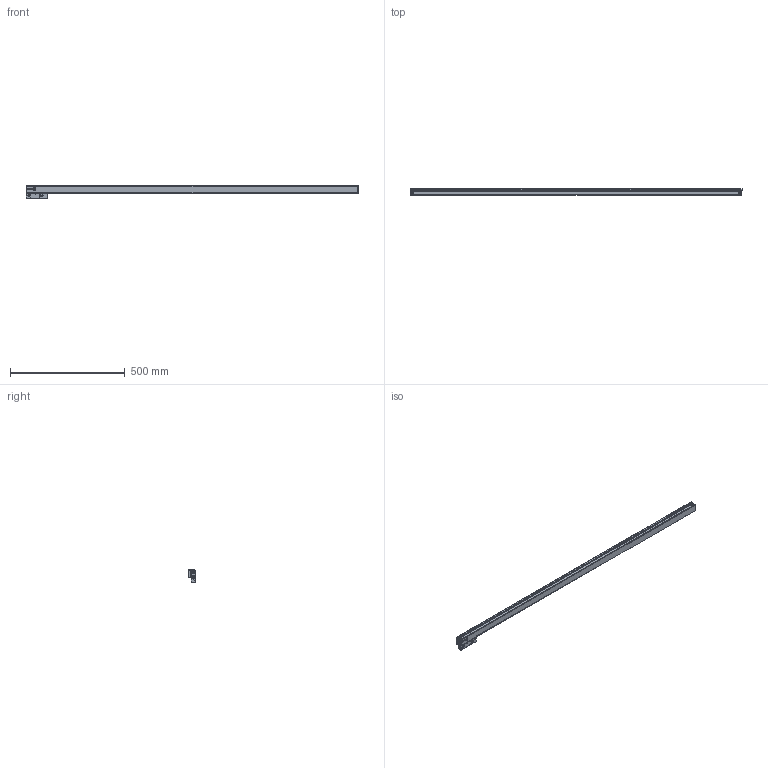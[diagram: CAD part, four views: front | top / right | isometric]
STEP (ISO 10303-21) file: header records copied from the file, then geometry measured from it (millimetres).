
FILE_DESCRIPTION(('Creo Elements/Direct Modeling STEP Export'),'2;1');
FILE_NAME('Regla SV2-1340.stp','2015-07-07T10:02:06',(''),(''),'Creo Elements/Direct Modeling STEP processor for AP214 (Solid Model)','Creo Elements/Direct Modeling 18.1G 27-Feb-2015 (C) Parametric Technology GmbH','');
FILE_SCHEMA(('AUTOMOTIVE_DESIGN { 1 0 10303 214 1 1 1 1 }'));
Length unit declared in the file: millimetre
Products named in the file (4): CABEZA_RANURADA_REGLA_SV2; REGLA_SV2-1340; SOPORTE_SV2; REGLA_SV2-1340mm
Assembly tree (3 placements, depth 2):
  REGLA_SV2-1340mm
    SOPORTE_SV2
    REGLA_SV2-1340
    CABEZA_RANURADA_REGLA_SV2
Bounding box: 1445 x 28 x 56.2 mm (x, y, z)
Volume: 777362.8 mm3; surface area: 412422.4 mm2
Topology: 2 solids, 21 shells, 2885 faces, 8093 edges, 5275 vertices
Faces by surface type: plane 1289, cylinder 1146, cone 250, bspline 130, torus 58, sphere 12
Entity records: 124095 total; most frequent: CARTESIAN_POINT 39527, ORIENTED_EDGE 16174, DIRECTION 13363, EDGE_CURVE 8063, VERTEX_POINT 5275, AXIS2_PLACEMENT_3D 4583, VECTOR 4197, LINE 4197
